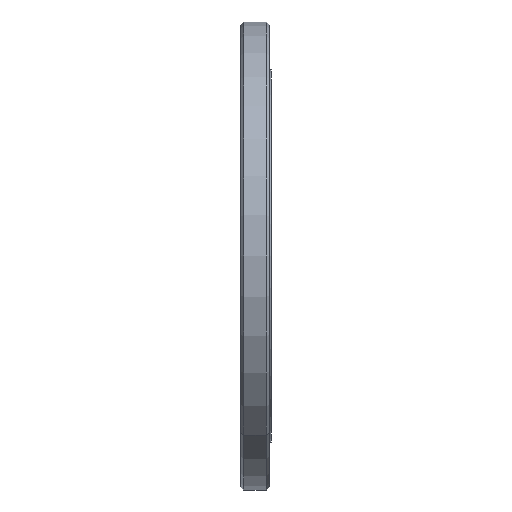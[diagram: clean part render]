
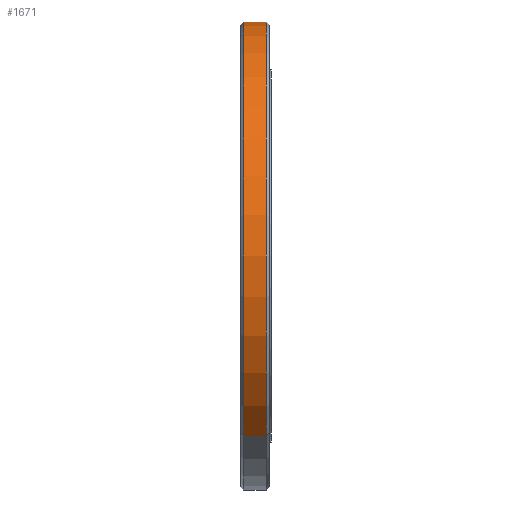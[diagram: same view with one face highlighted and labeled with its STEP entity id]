
A CAD part, left-side view. The second image highlights one B-rep face of the part: STEP entity #1671.
In plain terms, the highlighted cylindrical face has radius 114.3 mm (diameter 228.6 mm), a partial arc.
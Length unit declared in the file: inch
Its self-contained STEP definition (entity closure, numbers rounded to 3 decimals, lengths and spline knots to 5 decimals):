
#97 = VERTEX_POINT ( 'NONE', #5184 ) ;
#200 = CARTESIAN_POINT ( 'NONE',  ( 0., 0.09843, 4.5 ) ) ;
#238 = VECTOR ( 'NONE', #3180, 39.37008 ) ;
#290 = CARTESIAN_POINT ( 'NONE',  ( 0., 0.5315, 0. ) ) ;
#329 = ORIENTED_EDGE ( 'NONE', *, *, #3748, .F. ) ;
#471 = VECTOR ( 'NONE', #2827, 39.37008 ) ;
#492 = DIRECTION ( 'NONE',  ( 0., 0., -1. ) ) ;
#511 = CARTESIAN_POINT ( 'NONE',  ( 0., 0., 0. ) ) ;
#1010 = EDGE_CURVE ( 'NONE', #97, #2831, #3181, .T. ) ;
#1473 = EDGE_CURVE ( 'NONE', #3874, #5403, #2016, .T. ) ;
#1671 = ADVANCED_FACE ( 'NONE', ( #3233 ), #4250, .T. ) ;
#1827 = ORIENTED_EDGE ( 'NONE', *, *, #4518, .T. ) ;
#2016 = CIRCLE ( 'NONE', #4609, 4.5 ) ;
#2227 = DIRECTION ( 'NONE',  ( 0., 0., -1. ) ) ;
#2362 = AXIS2_PLACEMENT_3D ( 'NONE', #511, #4853, #2227 ) ;
#2686 = CARTESIAN_POINT ( 'NONE',  ( 0., 0.5315, -4.5 ) ) ;
#2715 = LINE ( 'NONE', #2756, #238 ) ;
#2756 = CARTESIAN_POINT ( 'NONE',  ( 0., 0., -4.5 ) ) ;
#2827 = DIRECTION ( 'NONE',  ( 0., -1., 0. ) ) ;
#2831 = VERTEX_POINT ( 'NONE', #2686 ) ;
#2918 = LINE ( 'NONE', #3680, #471 ) ;
#3046 = CARTESIAN_POINT ( 'NONE',  ( 0., 0.09843, 0. ) ) ;
#3180 = DIRECTION ( 'NONE',  ( 0., -1., 0. ) ) ;
#3181 = CIRCLE ( 'NONE', #4846, 4.5 ) ;
#3233 = FACE_OUTER_BOUND ( 'NONE', #3386, .T. ) ;
#3288 = ORIENTED_EDGE ( 'NONE', *, *, #1473, .T. ) ;
#3386 = EDGE_LOOP ( 'NONE', ( #329, #3528, #1827, #3288 ) ) ;
#3528 = ORIENTED_EDGE ( 'NONE', *, *, #1010, .T. ) ;
#3680 = CARTESIAN_POINT ( 'NONE',  ( 0., 0., 4.5 ) ) ;
#3748 = EDGE_CURVE ( 'NONE', #97, #5403, #2918, .T. ) ;
#3874 = VERTEX_POINT ( 'NONE', #4188 ) ;
#4188 = CARTESIAN_POINT ( 'NONE',  ( 0., 0.09843, -4.5 ) ) ;
#4250 = CYLINDRICAL_SURFACE ( 'NONE', #2362, 4.5 ) ;
#4518 = EDGE_CURVE ( 'NONE', #2831, #3874, #2715, .T. ) ;
#4609 = AXIS2_PLACEMENT_3D ( 'NONE', #3046, #4771, #492 ) ;
#4771 = DIRECTION ( 'NONE',  ( 0., 1., 0. ) ) ;
#4846 = AXIS2_PLACEMENT_3D ( 'NONE', #290, #5095, #5151 ) ;
#4853 = DIRECTION ( 'NONE',  ( 0., -1., 0. ) ) ;
#5095 = DIRECTION ( 'NONE',  ( 0., -1., 0. ) ) ;
#5151 = DIRECTION ( 'NONE',  ( 0., 0., -1. ) ) ;
#5184 = CARTESIAN_POINT ( 'NONE',  ( 0., 0.5315, 4.5 ) ) ;
#5403 = VERTEX_POINT ( 'NONE', #200 ) ;
